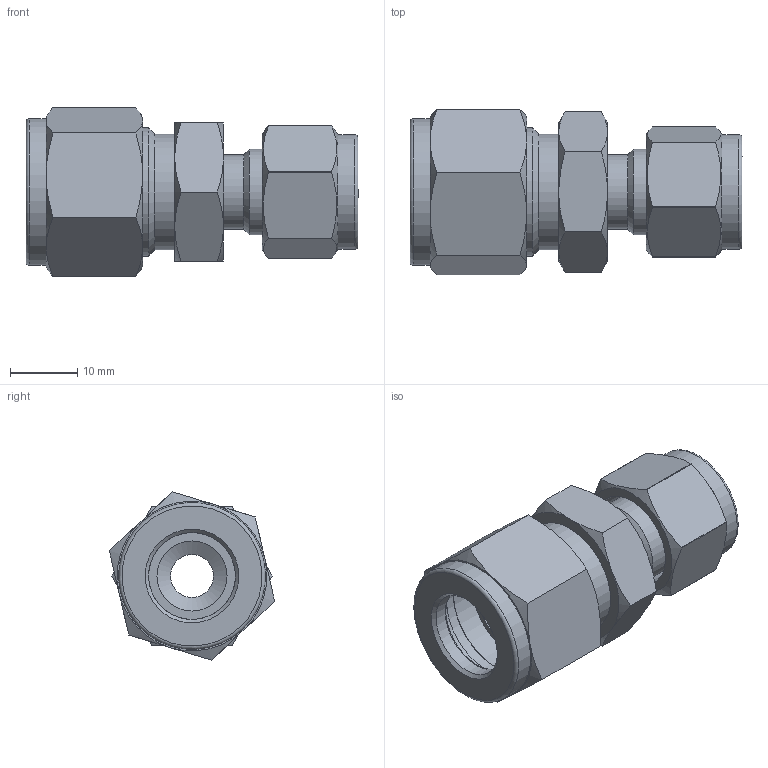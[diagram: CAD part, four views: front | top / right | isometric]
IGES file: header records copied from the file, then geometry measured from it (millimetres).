
Global section: file name: No Iges File Name specified; native system: Autodesk Inventor 2012; preprocessor: AutoDesk Inventor Iges Exporter R2012; author: 硅己绕,,1; organization: 1; date: 20150428.084632; units: millimetre
Bounding box: 49.27 x 24.54 x 24.99 mm (x, y, z)
Volume: 9099.5 mm3; surface area: 7653 mm2
Topology: 3 solids, 3 shells, 103 faces, 238 edges, 150 vertices
Faces by surface type: plane 33, cone 30, revolution 22, cylinder 14, torus 4
Full cylindrical faces by diameter (mm): 11 x2, 12.7 x1, 17 x1, 17.2 x1, 17.3 x1, 19.05 x1, 21.8 x1
